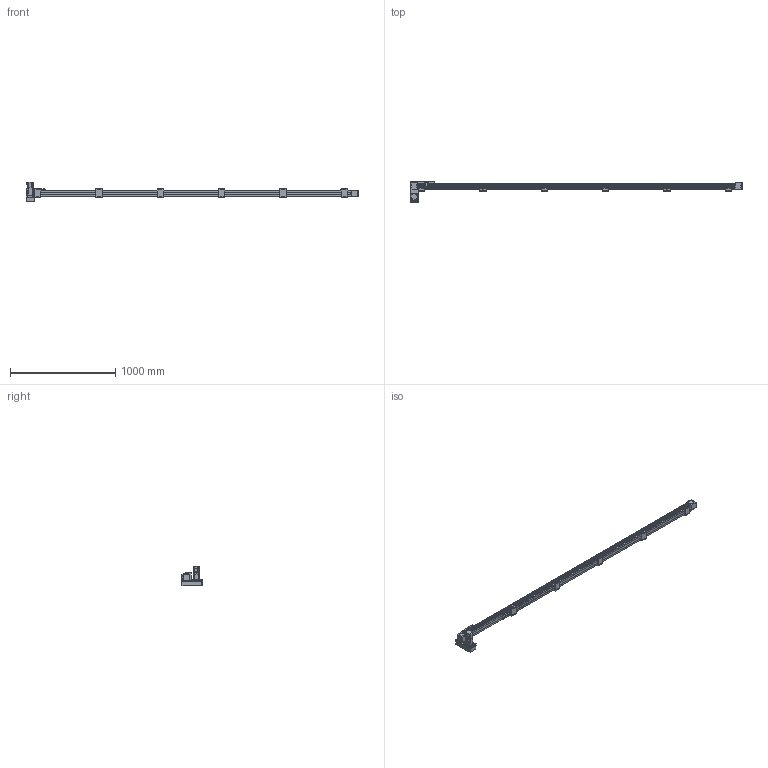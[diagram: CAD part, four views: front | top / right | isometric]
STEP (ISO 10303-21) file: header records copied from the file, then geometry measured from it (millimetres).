
FILE_DESCRIPTION(/* description */ ('STEP AP214'),/* implementation_level */ '2;1');
FILE_NAME(/* name */ 'SK60-P13-S2850-LD-T40-C1-N(0)',/* time_stamp */ '2023-04-06T04:40:13+02:00',/* author */ ('License CC BY-ND 4.0'),/* organization */ ('CADENAS'),/* preprocessor_version */ 'ST-DEVELOPER v19.3',/* originating_system */ 'PARTsolutions',/* authorisation */ ' ');
FILE_SCHEMA (('AUTOMOTIVE_DESIGN {1 0 10303 214 3 1 1}'));
Length unit declared in the file: millimetre
Products named in the file (10): SK60-P13-S2850-LD-T40-C1-N(0); PSC140-sensor; SK60-S450_seat; SK60-S450-BL-C1_slider; SK60_body3; SK60_body6; SK60-BL_body2; T40-p1; SK60-LD_fb; SK60-S2850-LD-C1_body
Assembly tree (20 placements, depth 2):
  SK60-P13-S2850-LD-T40-C1-N(0)
    PSC140-sensor  x3
    SK60-S450_seat  x6
    SK60-S450-BL-C1_slider
    SK60_body3  x3
    SK60_body6  x2
    SK60-BL_body2  x2
    T40-p1
    SK60-LD_fb
    SK60-S2850-LD-C1_body
Bounding box: 3155.5 x 199 x 189.7 mm (x, y, z)
Volume: 11903345.8 mm3; surface area: 1393091.3 mm2
Topology: 20 solids, 20 shells, 986 faces, 2440 edges, 1605 vertices
Faces by surface type: plane 620, cylinder 326, cone 38, torus 2
Full cylindrical faces by diameter (mm): 2.8 x3, 3.3 x4, 4 x2, 4.5 x30, 4.6 x3, 4.917 x32, 5 x6, 5.478 x4, 5.5 x35, 6.5 x12, 7 x2, 8 x4, 8.5 x4, 9.988 x4, 10 x24, 14 x1, 47 x3, 50 x2
Entity records: 18687 total; most frequent: DIRECTION 3192, CARTESIAN_POINT 3154, ORIENTED_EDGE 2940, EDGE_CURVE 1470, AXIS2_PLACEMENT_3D 1072, LINE 1048, VECTOR 1048, VERTEX_POINT 1034
